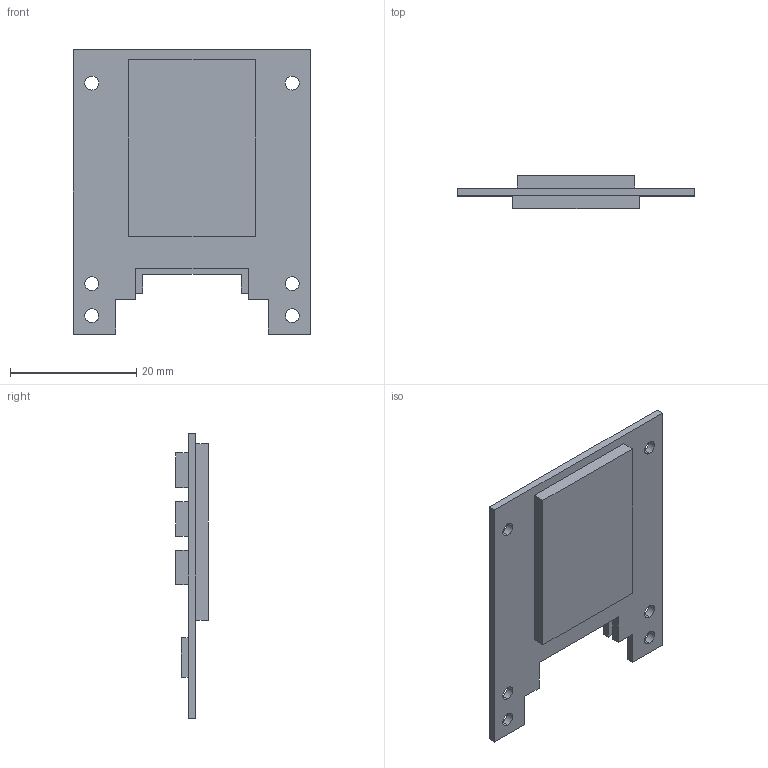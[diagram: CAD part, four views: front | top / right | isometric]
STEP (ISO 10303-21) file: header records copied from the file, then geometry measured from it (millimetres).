
FILE_DESCRIPTION(/* description */ ('VariCAD 2010-3.03 AP-214'),/* implementation_level */ '2;1');
FILE_NAME(/* name */ '0353-00-081',/* time_stamp */ '2011-02-28T17:49:33-07:00',/* author */ (''),/* organization */ (''),/* preprocessor_version */ 'ST-DEVELOPER v12',/* originating_system */ 'VariCAD 2010-3.03; kernel version (20100102)',/* authorisation */ '');
FILE_SCHEMA (('AUTOMOTIVE_DESIGN'));
Length unit declared in the file: millimetre
Products named in the file (1): Part
Bounding box: 37.59 x 5.2 x 45 mm (x, y, z)
Volume: 3546.1 mm3; surface area: 3759.9 mm2
Topology: 1 solids, 1 shells, 56 faces, 148 edges, 98 vertices
Faces by surface type: plane 44, cylinder 12
Entity records: 1983 total; most frequent: CARTESIAN_POINT 304, ORIENTED_EDGE 296, DIRECTION 288, EDGE_CURVE 148, LINE 124, VECTOR 124, VERTEX_POINT 98, AXIS2_PLACEMENT_3D 82
